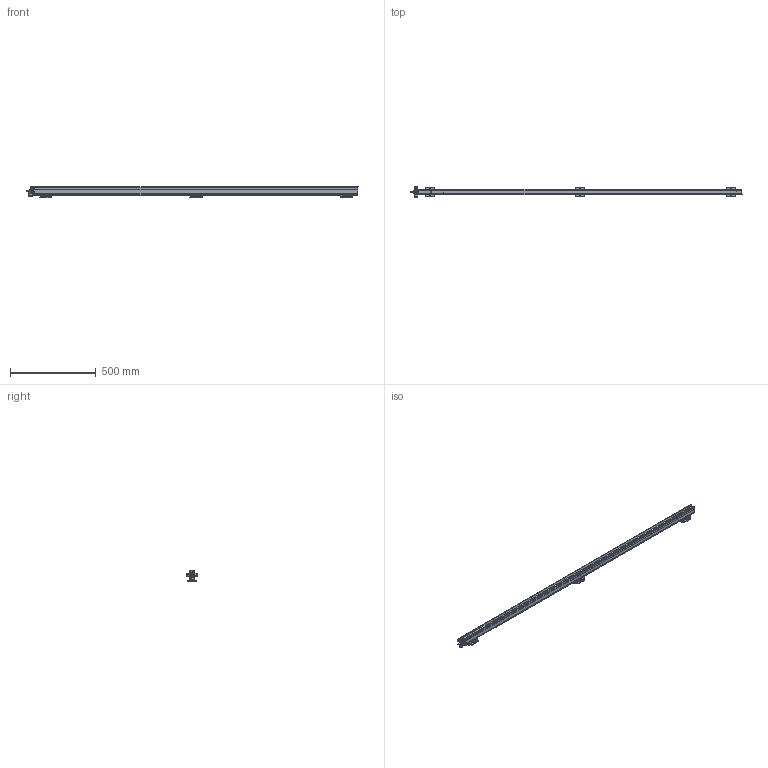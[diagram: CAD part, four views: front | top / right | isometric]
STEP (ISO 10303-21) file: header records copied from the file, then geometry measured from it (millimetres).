
FILE_DESCRIPTION(/* description */ (''),/* implementation_level */ '2;1');
FILE_NAME(/* name */ 'PERFORMAXEASYEX_1710_3D_GB',/* time_stamp */ '2017-05-31T09:50:46+02:00',/* author */ (''),/* organization */ (''),/* preprocessor_version */ 'ST-DEVELOPER v15.7',/* originating_system */ 'HiCAD 2015 2002.1 Build 408',/* authorisation */ '');
FILE_SCHEMA (('AUTOMOTIVE_DESIGN { 1 0 10303 214 1 1 1 1 }'));
Length unit declared in the file: millimetre
Products named in the file (66): Root; -_Performax (IQ) Easy Ex 1710 eff (Hybrid + Speed); -_LED; -_PROFILE; -_POTTING; -_CAP DE; -_CAP CE; -_CABLE; -_PIN; -_COVER; 4532000100_Mounting bracket bars; -_Side piece; -_Slide piece; -_Bracket small; DIN 13-M3; DIN 76-M3; 2047507823_PE connection; DIN 916-M4x20-45H_Set screws; GEWINDE; ISO 8738-4-160 HV_Washers for studs; ISO 4032-M4-10_Hexagon nuts; DIN 127-A 4-FSt_Washers; 2047493713_Cable exits; -_Exit K; -_Clip; -_Gland body; -_Exit S; -_Exit Q; -_Washer ø20mm, 5mm thick for corr. conduit (exit
 Q); -_Exit I; -_Exit U; -_Exit A; Thread_2
Assembly tree (65 placements, depth 5):
  Root
    -_Performax (IQ) Easy Ex 1710 eff (Hybrid + Speed)
      -_LED
      -_PROFILE
      -_POTTING
      -_CAP DE
      -_CAP CE
      -_CABLE
      -_PIN
      -_PIN
      -_COVER
      4532000100_Mounting bracket bars
        -_Side piece
        -_Side piece
        -_Slide piece
        -_Bracket small
          DIN 13-M3
          DIN 13-M3
          DIN 76-M3
          DIN 76-M3
      4532000100_Mounting bracket bars
        -_Side piece
        -_Side piece
        -_Slide piece
        -_Bracket small
          DIN 13-M3
          DIN 13-M3
          DIN 76-M3
          DIN 76-M3
      4532000100_Mounting bracket bars
        -_Side piece
        -_Side piece
        -_Slide piece
        -_Bracket small
          DIN 13-M3
          DIN 13-M3
          DIN 76-M3
          DIN 76-M3
      2047507823_PE connection
        DIN 916-M4x20-45H_Set screws
          GEWINDE
        ISO 8738-4-160 HV_Washers for studs
        ISO 4032-M4-10_Hexagon nuts
          GEWINDE
        DIN 127-A 4-FSt_Washers
        ISO 4032-M4-10_Hexagon nuts
          GEWINDE
      2047493713_Cable exits
        -_Exit K
          -_Clip
          -_Gland body
        -_Exit S
          -_Clip
          -_Gland body
        -_Exit Q
          -_Clip
          -_Washer ø20mm, 5mm thick for corr. conduit (exit
 Q)
          -_Gland body
        -_Exit I
          -_Clip
Bounding box: 1932.4 x 58.79 x 68.9 mm (x, y, z)
Volume: 2328193 mm3; surface area: 666857.7 mm2
Topology: 55 solids, 64 shells, 2590 faces, 6638 edges, 4032 vertices
Faces by surface type: plane 1152, cylinder 1031, torus 134, sphere 126, bspline 96, cone 51
Full cylindrical faces by diameter (mm): 2.387 x12, 3 x24, 3.141 x4, 4 x5, 4.3 x1, 5.4 x2, 5.5 x15, 8 x2, 11.3 x4, 12.5 x4, 13 x1, 14.6 x5, 15.1 x5, 18.4 x4, 20 x7, 20.2 x4
Entity records: 141652 total; most frequent: CARTESIAN_POINT 28981, DIRECTION 13310, PRESENTATION_STYLE_ASSIGNMENT 12610, OVER_RIDING_STYLED_ITEM 12556, DRAUGHTING_PRE_DEFINED_CURVE_FONT 12538, CURVE_STYLE 12538, ORIENTED_EDGE 12538, EDGE_CURVE 6269
